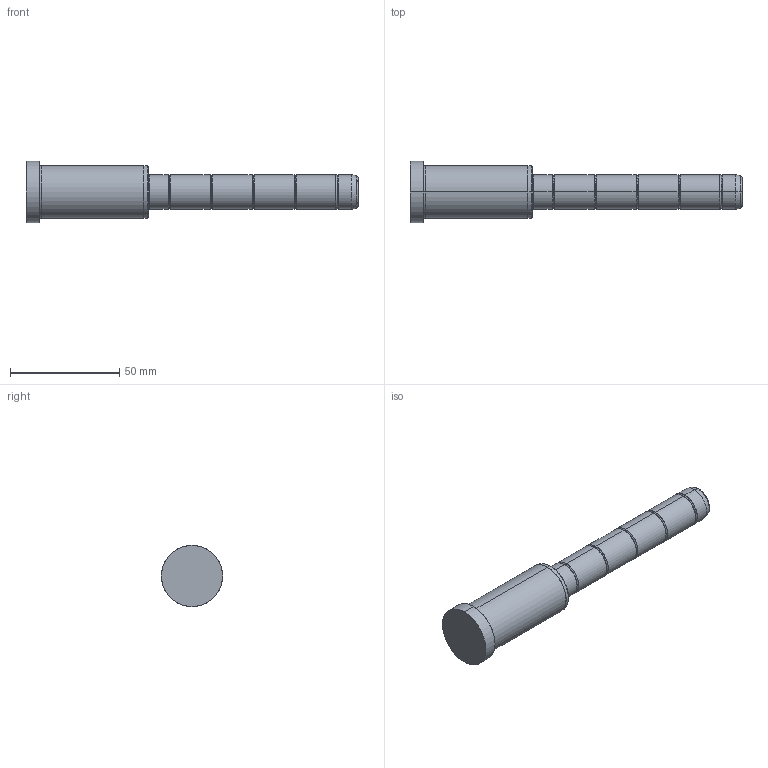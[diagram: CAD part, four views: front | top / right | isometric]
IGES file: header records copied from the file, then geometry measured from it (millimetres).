
Start section: SolidWorks IGES file using analytic representation for surfaces
Global section: file name: C:\Documents and Settings\kalite-mail\Desktop\IGS\D02\16\D02 - 16x56x96.IGS; native system: SolidWorks 2008; preprocessor: SolidWorks 2008; author: kalite-mail; date: 080616.143924; units: millimetre
Bounding box: 152 x 28 x 28 mm (x, y, z)
Surface area: 10402.4 mm2 (no closed solid volume)
Topology: 0 solids, 0 shells, 54 faces, 576 edges, 576 vertices
Faces by surface type: bspline 30, revolution 24
